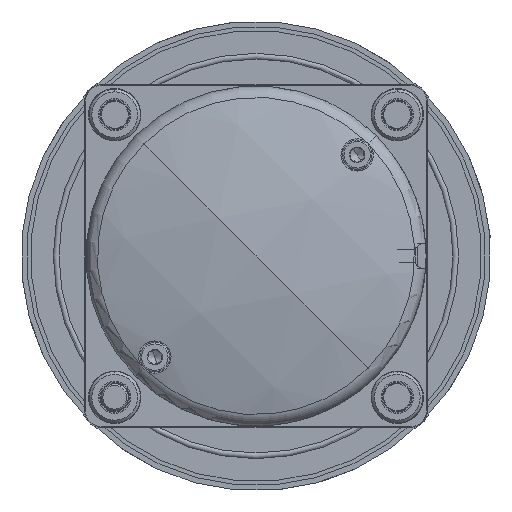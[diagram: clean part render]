
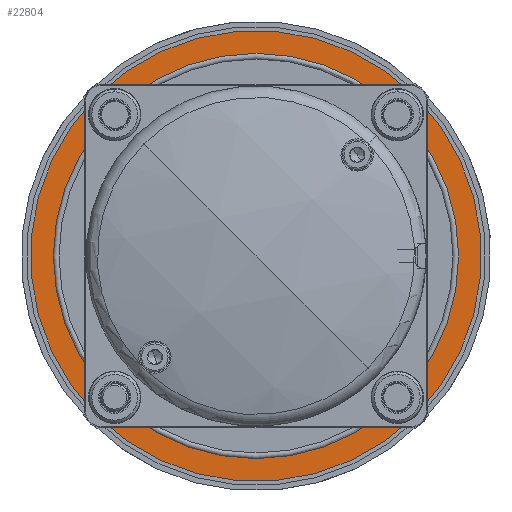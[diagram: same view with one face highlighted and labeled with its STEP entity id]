
A CAD part, front view. The second image highlights one B-rep face of the part: STEP entity #22804.
In plain terms, the highlighted planar face has unit normal (0, -1, 0).
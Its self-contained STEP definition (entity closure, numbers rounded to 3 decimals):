
#112 = CARTESIAN_POINT ( 'NONE',  ( 29.522, 3.8, -29.522 ) ) ;
#816 = CARTESIAN_POINT ( 'NONE',  ( -29.213, 3.8, 23.544 ) ) ;
#820 = CARTESIAN_POINT ( 'NONE',  ( 29.213, 3.8, -23.544 ) ) ;
#1596 = EDGE_CURVE ( 'NONE', #20463, #8624, #22326, .T. ) ;
#2964 = DIRECTION ( 'NONE',  ( 0.707, 0., 0.707 ) ) ;
#3002 = ORIENTED_EDGE ( 'NONE', *, *, #38748, .T. ) ;
#3397 = EDGE_LOOP ( 'NONE', ( #23272, #27759, #11786, #23476, #25150, #16670, #31868, #38444 ) ) ;
#3837 = AXIS2_PLACEMENT_3D ( 'NONE', #15228, #42853, #19215 ) ;
#5545 = VERTEX_POINT ( 'NONE', #5846 ) ;
#5846 = CARTESIAN_POINT ( 'NONE',  ( -29.522, 3.8, 29.522 ) ) ;
#6293 = PLANE ( 'NONE',  #21602 ) ;
#7293 = CIRCLE ( 'NONE', #16132, 4.02 ) ;
#7298 = CARTESIAN_POINT ( 'NONE',  ( 0., 3.8, 0. ) ) ;
#8624 = VERTEX_POINT ( 'NONE', #20510 ) ;
#8657 = CARTESIAN_POINT ( 'NONE',  ( -23.544, 3.8, -29.213 ) ) ;
#9207 = EDGE_CURVE ( 'NONE', #17785, #15950, #7293, .T. ) ;
#9490 = EDGE_CURVE ( 'NONE', #47921, #40779, #36898, .T. ) ;
#10271 = DIRECTION ( 'NONE',  ( -0.707, 0., 0.707 ) ) ;
#10340 = CARTESIAN_POINT ( 'NONE',  ( 0., 3.8, 0. ) ) ;
#11256 = DIRECTION ( 'NONE',  ( -0.707, 0., 0.707 ) ) ;
#11786 = ORIENTED_EDGE ( 'NONE', *, *, #24424, .F. ) ;
#12603 = CARTESIAN_POINT ( 'NONE',  ( 23.544, 3.8, 29.213 ) ) ;
#12651 = CARTESIAN_POINT ( 'NONE',  ( -26.163, 3.8, -26.163 ) ) ;
#13127 = EDGE_CURVE ( 'NONE', #16467, #8624, #22321, .T. ) ;
#14293 = DIRECTION ( 'NONE',  ( -0.707, 0., 0.707 ) ) ;
#15003 = DIRECTION ( 'NONE',  ( 0., 1., 0. ) ) ;
#15056 = CIRCLE ( 'NONE', #18362, 37.52 ) ;
#15228 = CARTESIAN_POINT ( 'NONE',  ( 0., 3.8, 0. ) ) ;
#15775 = CARTESIAN_POINT ( 'NONE',  ( 0., 3.8, 0. ) ) ;
#15950 = VERTEX_POINT ( 'NONE', #45092 ) ;
#16132 = AXIS2_PLACEMENT_3D ( 'NONE', #12651, #40253, #16655 ) ;
#16332 = AXIS2_PLACEMENT_3D ( 'NONE', #22994, #50915, #50238 ) ;
#16467 = VERTEX_POINT ( 'NONE', #12603 ) ;
#16655 = DIRECTION ( 'NONE',  ( -0.707, 0., 0.707 ) ) ;
#16670 = ORIENTED_EDGE ( 'NONE', *, *, #19290, .T. ) ;
#17145 = CARTESIAN_POINT ( 'NONE',  ( 26.163, 3.8, 26.163 ) ) ;
#17785 = VERTEX_POINT ( 'NONE', #8657 ) ;
#18362 = AXIS2_PLACEMENT_3D ( 'NONE', #46693, #23059, #50647 ) ;
#19064 = VERTEX_POINT ( 'NONE', #21395 ) ;
#19215 = DIRECTION ( 'NONE',  ( -0.707, 0., 0.707 ) ) ;
#19290 = EDGE_CURVE ( 'NONE', #20463, #19064, #22998, .T. ) ;
#19630 = AXIS2_PLACEMENT_3D ( 'NONE', #17145, #44735, #21117 ) ;
#19756 = DIRECTION ( 'NONE',  ( -0.707, 0., 0.707 ) ) ;
#20125 = CIRCLE ( 'NONE', #3837, 37.52 ) ;
#20463 = VERTEX_POINT ( 'NONE', #820 ) ;
#20499 = CIRCLE ( 'NONE', #38960, 37.52 ) ;
#20510 = CARTESIAN_POINT ( 'NONE',  ( 29.213, 3.8, 23.544 ) ) ;
#21117 = DIRECTION ( 'NONE',  ( 0.707, 0., -0.707 ) ) ;
#21395 = CARTESIAN_POINT ( 'NONE',  ( 23.544, 3.8, -29.213 ) ) ;
#21602 = AXIS2_PLACEMENT_3D ( 'NONE', #41677, #33931, #10271 ) ;
#22321 = CIRCLE ( 'NONE', #19630, 4.02 ) ;
#22326 = CIRCLE ( 'NONE', #16332, 37.52 ) ;
#22804 = ADVANCED_FACE ( 'NONE', ( #50542, #49296 ), #6293, .T. ) ;
#22994 = CARTESIAN_POINT ( 'NONE',  ( 0., 3.8, 0. ) ) ;
#22998 = CIRCLE ( 'NONE', #41075, 4.02 ) ;
#23059 = DIRECTION ( 'NONE',  ( 0., -1., 0. ) ) ;
#23085 = AXIS2_PLACEMENT_3D ( 'NONE', #50252, #26621, #2964 ) ;
#23272 = ORIENTED_EDGE ( 'NONE', *, *, #45767, .F. ) ;
#23476 = ORIENTED_EDGE ( 'NONE', *, *, #13127, .T. ) ;
#24424 = EDGE_CURVE ( 'NONE', #16467, #40779, #20125, .T. ) ;
#24868 = ORIENTED_EDGE ( 'NONE', *, *, #36797, .T. ) ;
#25150 = ORIENTED_EDGE ( 'NONE', *, *, #1596, .F. ) ;
#26155 = AXIS2_PLACEMENT_3D ( 'NONE', #7298, #34939, #11256 ) ;
#26621 = DIRECTION ( 'NONE',  ( 0., 1., 0. ) ) ;
#27759 = ORIENTED_EDGE ( 'NONE', *, *, #9490, .T. ) ;
#31868 = ORIENTED_EDGE ( 'NONE', *, *, #44775, .F. ) ;
#33931 = DIRECTION ( 'NONE',  ( 0., -1., 0. ) ) ;
#34939 = DIRECTION ( 'NONE',  ( 0., -1., 0. ) ) ;
#34965 = CIRCLE ( 'NONE', #49726, 41.75 ) ;
#36797 = EDGE_CURVE ( 'NONE', #5545, #39407, #46358, .T. ) ;
#36898 = CIRCLE ( 'NONE', #23085, 4.02 ) ;
#37313 = CARTESIAN_POINT ( 'NONE',  ( -23.544, 3.8, 29.213 ) ) ;
#37951 = DIRECTION ( 'NONE',  ( 0., -1., 0. ) ) ;
#38444 = ORIENTED_EDGE ( 'NONE', *, *, #9207, .T. ) ;
#38633 = CARTESIAN_POINT ( 'NONE',  ( 26.163, 3.8, -26.163 ) ) ;
#38748 = EDGE_CURVE ( 'NONE', #39407, #5545, #34965, .T. ) ;
#38960 = AXIS2_PLACEMENT_3D ( 'NONE', #10340, #37951, #14293 ) ;
#39407 = VERTEX_POINT ( 'NONE', #112 ) ;
#40253 = DIRECTION ( 'NONE',  ( 0., 1., 0. ) ) ;
#40779 = VERTEX_POINT ( 'NONE', #37313 ) ;
#41075 = AXIS2_PLACEMENT_3D ( 'NONE', #38633, #15003, #42608 ) ;
#41677 = CARTESIAN_POINT ( 'NONE',  ( -26.53, 3.8, -26.53 ) ) ;
#42608 = DIRECTION ( 'NONE',  ( -0.707, 0., -0.707 ) ) ;
#42853 = DIRECTION ( 'NONE',  ( 0., -1., 0. ) ) ;
#43395 = DIRECTION ( 'NONE',  ( 0., -1., 0. ) ) ;
#44735 = DIRECTION ( 'NONE',  ( 0., 1., 0. ) ) ;
#44775 = EDGE_CURVE ( 'NONE', #17785, #19064, #15056, .T. ) ;
#45092 = CARTESIAN_POINT ( 'NONE',  ( -29.213, 3.8, -23.544 ) ) ;
#45767 = EDGE_CURVE ( 'NONE', #47921, #15950, #20499, .T. ) ;
#46358 = CIRCLE ( 'NONE', #26155, 41.75 ) ;
#46693 = CARTESIAN_POINT ( 'NONE',  ( 0., 3.8, 0. ) ) ;
#47061 = EDGE_LOOP ( 'NONE', ( #24868, #3002 ) ) ;
#47921 = VERTEX_POINT ( 'NONE', #816 ) ;
#49296 = FACE_BOUND ( 'NONE', #3397, .T. ) ;
#49726 = AXIS2_PLACEMENT_3D ( 'NONE', #15775, #43395, #19756 ) ;
#50238 = DIRECTION ( 'NONE',  ( -0.707, 0., 0.707 ) ) ;
#50252 = CARTESIAN_POINT ( 'NONE',  ( -26.163, 3.8, 26.163 ) ) ;
#50542 = FACE_OUTER_BOUND ( 'NONE', #47061, .T. ) ;
#50647 = DIRECTION ( 'NONE',  ( -0.707, 0., 0.707 ) ) ;
#50915 = DIRECTION ( 'NONE',  ( 0., -1., 0. ) ) ;
